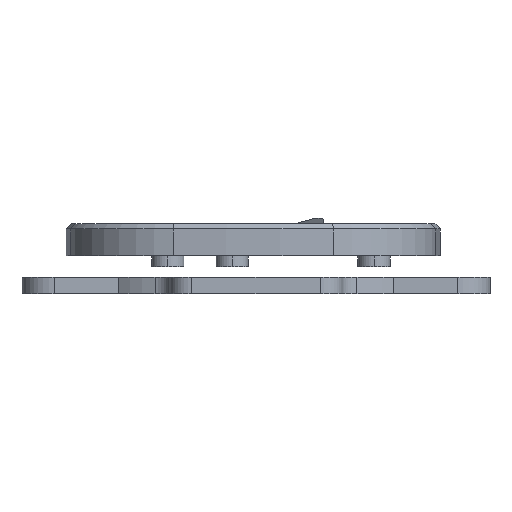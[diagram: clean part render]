
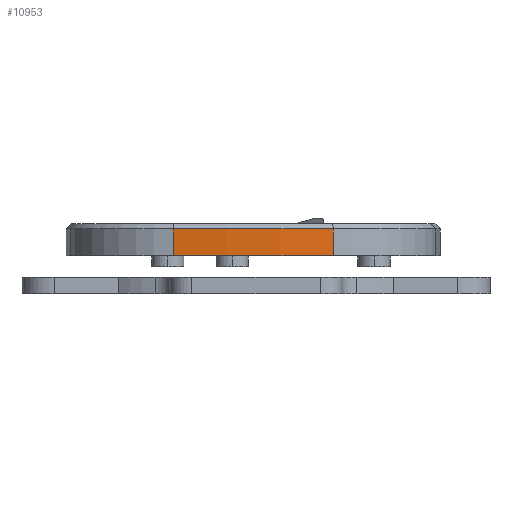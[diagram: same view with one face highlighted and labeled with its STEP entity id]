
A CAD part, front view. The second image highlights one B-rep face of the part: STEP entity #10953.
In plain terms, the highlighted cylindrical face has radius 60 mm (diameter 120 mm), a partial arc.
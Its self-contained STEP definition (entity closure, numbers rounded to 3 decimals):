
#1072 = VERTEX_POINT ( 'NONE', #6197 ) ;
#2411 = CIRCLE ( 'NONE', #22560, 60. ) ;
#3075 = ORIENTED_EDGE ( 'NONE', *, *, #14581, .T. ) ;
#4512 = CARTESIAN_POINT ( 'NONE',  ( 0., 2.5, -42.536 ) ) ;
#6197 = CARTESIAN_POINT ( 'NONE',  ( -7.451, 0., 17. ) ) ;
#6508 = EDGE_CURVE ( 'NONE', #10378, #31590, #11973, .T. ) ;
#7195 = CARTESIAN_POINT ( 'NONE',  ( 7.451, 2.5, 17. ) ) ;
#9746 = DIRECTION ( 'NONE',  ( 0., 0., 1. ) ) ;
#9911 = CARTESIAN_POINT ( 'NONE',  ( 7.451, 0., 17. ) ) ;
#10378 = VERTEX_POINT ( 'NONE', #7195 ) ;
#10717 = VECTOR ( 'NONE', #13024, 1000. ) ;
#10953 = ADVANCED_FACE ( 'NONE', ( #11856 ), #21762, .T. ) ;
#11856 = FACE_OUTER_BOUND ( 'NONE', #12185, .T. ) ;
#11937 = DIRECTION ( 'NONE',  ( 0., 0., 1. ) ) ;
#11973 = LINE ( 'NONE', #21876, #18056 ) ;
#12185 = EDGE_LOOP ( 'NONE', ( #18489, #3075, #17683, #13412 ) ) ;
#13024 = DIRECTION ( 'NONE',  ( 0., -1., 0. ) ) ;
#13412 = ORIENTED_EDGE ( 'NONE', *, *, #21669, .T. ) ;
#14581 = EDGE_CURVE ( 'NONE', #10378, #30313, #2411, .T. ) ;
#14884 = AXIS2_PLACEMENT_3D ( 'NONE', #26554, #26710, #9746 ) ;
#15618 = CARTESIAN_POINT ( 'NONE',  ( -7.451, 52.397, 17. ) ) ;
#17034 = DIRECTION ( 'NONE',  ( 0., -1., 0. ) ) ;
#17683 = ORIENTED_EDGE ( 'NONE', *, *, #29778, .T. ) ;
#18056 = VECTOR ( 'NONE', #24586, 1000. ) ;
#18489 = ORIENTED_EDGE ( 'NONE', *, *, #6508, .F. ) ;
#21669 = EDGE_CURVE ( 'NONE', #1072, #31590, #24670, .T. ) ;
#21762 = CYLINDRICAL_SURFACE ( 'NONE', #22281, 60. ) ;
#21876 = CARTESIAN_POINT ( 'NONE',  ( 7.451, 52.397, 17. ) ) ;
#22281 = AXIS2_PLACEMENT_3D ( 'NONE', #31724, #17034, #31564 ) ;
#22560 = AXIS2_PLACEMENT_3D ( 'NONE', #4512, #23925, #11937 ) ;
#23925 = DIRECTION ( 'NONE',  ( 0., -1., 0. ) ) ;
#24586 = DIRECTION ( 'NONE',  ( 0., -1., 0. ) ) ;
#24670 = CIRCLE ( 'NONE', #14884, 60. ) ;
#24976 = LINE ( 'NONE', #15618, #10717 ) ;
#26554 = CARTESIAN_POINT ( 'NONE',  ( 0., 0., -42.536 ) ) ;
#26710 = DIRECTION ( 'NONE',  ( 0., 1., 0. ) ) ;
#29560 = CARTESIAN_POINT ( 'NONE',  ( -7.451, 2.5, 17. ) ) ;
#29778 = EDGE_CURVE ( 'NONE', #30313, #1072, #24976, .T. ) ;
#30313 = VERTEX_POINT ( 'NONE', #29560 ) ;
#31564 = DIRECTION ( 'NONE',  ( 0., 0., -1. ) ) ;
#31590 = VERTEX_POINT ( 'NONE', #9911 ) ;
#31724 = CARTESIAN_POINT ( 'NONE',  ( 0., 52.397, -42.536 ) ) ;
